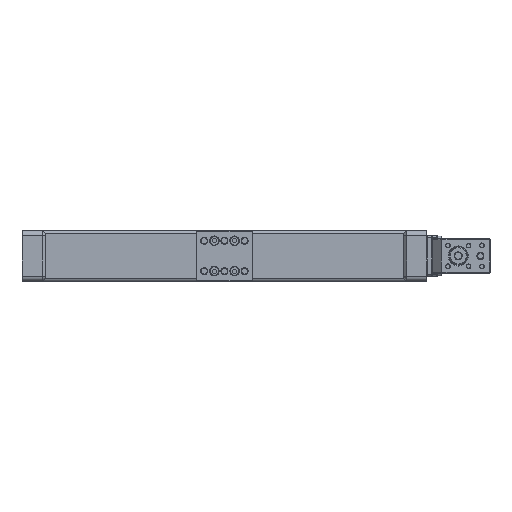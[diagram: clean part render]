
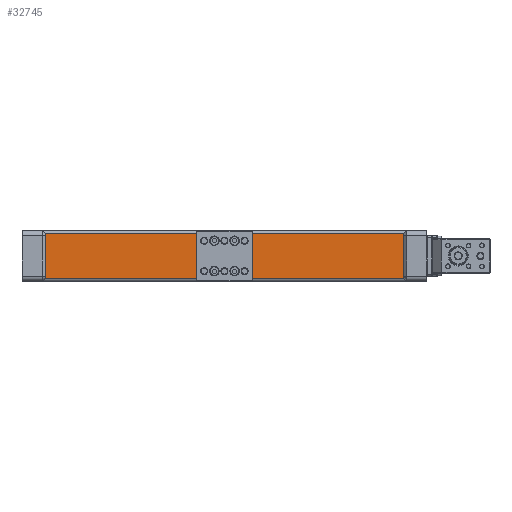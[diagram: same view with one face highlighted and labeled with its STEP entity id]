
A CAD part, top view. The second image highlights one B-rep face of the part: STEP entity #32745.
In plain terms, the highlighted planar face has unit normal (0, 0, 1).
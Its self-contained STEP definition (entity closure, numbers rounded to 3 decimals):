
#65 = FACE_OUTER_BOUND ( 'NONE', #12172, .T. ) ;
#79 = CARTESIAN_POINT ( 'NONE',  ( 187.5, -22., 40. ) ) ;
#2546 = DIRECTION ( 'NONE',  ( -1., 0., 0. ) ) ;
#4847 = EDGE_CURVE ( 'NONE', #40293, #29931, #34600, .T. ) ;
#7838 = ORIENTED_EDGE ( 'NONE', *, *, #24236, .T. ) ;
#8491 = CARTESIAN_POINT ( 'NONE',  ( -187.49, -22., 40. ) ) ;
#8946 = CARTESIAN_POINT ( 'NONE',  ( 187.5, 22., 40. ) ) ;
#9575 = VECTOR ( 'NONE', #25147, 1000. ) ;
#12172 = EDGE_LOOP ( 'NONE', ( #21981, #7838, #17460, #29541 ) ) ;
#12623 = DIRECTION ( 'NONE',  ( 0., 0., -1. ) ) ;
#17417 = CARTESIAN_POINT ( 'NONE',  ( 187.49, -22., 40. ) ) ;
#17460 = ORIENTED_EDGE ( 'NONE', *, *, #40093, .T. ) ;
#18064 = VECTOR ( 'NONE', #33945, 1000. ) ;
#20195 = CARTESIAN_POINT ( 'NONE',  ( -187.49, 22., 40. ) ) ;
#21428 = CARTESIAN_POINT ( 'NONE',  ( -187.49, 22., 40. ) ) ;
#21981 = ORIENTED_EDGE ( 'NONE', *, *, #4847, .T. ) ;
#24236 = EDGE_CURVE ( 'NONE', #29931, #27650, #40531, .T. ) ;
#25147 = DIRECTION ( 'NONE',  ( 1., 0., 0. ) ) ;
#25549 = CARTESIAN_POINT ( 'NONE',  ( 187.5, -25., 40. ) ) ;
#25906 = CARTESIAN_POINT ( 'NONE',  ( 187.49, 22., 40. ) ) ;
#26999 = VECTOR ( 'NONE', #36160, 1000. ) ;
#27650 = VERTEX_POINT ( 'NONE', #8491 ) ;
#28227 = LINE ( 'NONE', #79, #9575 ) ;
#28629 = PLANE ( 'NONE',  #33496 ) ;
#28989 = LINE ( 'NONE', #25906, #26999 ) ;
#29541 = ORIENTED_EDGE ( 'NONE', *, *, #33249, .T. ) ;
#29931 = VERTEX_POINT ( 'NONE', #20195 ) ;
#30725 = VERTEX_POINT ( 'NONE', #17417 ) ;
#32745 = ADVANCED_FACE ( 'NONE', ( #65 ), #28629, .F. ) ;
#33249 = EDGE_CURVE ( 'NONE', #30725, #40293, #28989, .T. ) ;
#33496 = AXIS2_PLACEMENT_3D ( 'NONE', #25549, #12623, #38080 ) ;
#33945 = DIRECTION ( 'NONE',  ( 0., -1., 0. ) ) ;
#34434 = VECTOR ( 'NONE', #2546, 1000. ) ;
#34600 = LINE ( 'NONE', #8946, #34434 ) ;
#36160 = DIRECTION ( 'NONE',  ( 0., 1., 0. ) ) ;
#36222 = CARTESIAN_POINT ( 'NONE',  ( 187.49, 22., 40. ) ) ;
#38080 = DIRECTION ( 'NONE',  ( 0., 1., 0. ) ) ;
#40093 = EDGE_CURVE ( 'NONE', #27650, #30725, #28227, .T. ) ;
#40293 = VERTEX_POINT ( 'NONE', #36222 ) ;
#40531 = LINE ( 'NONE', #21428, #18064 ) ;
